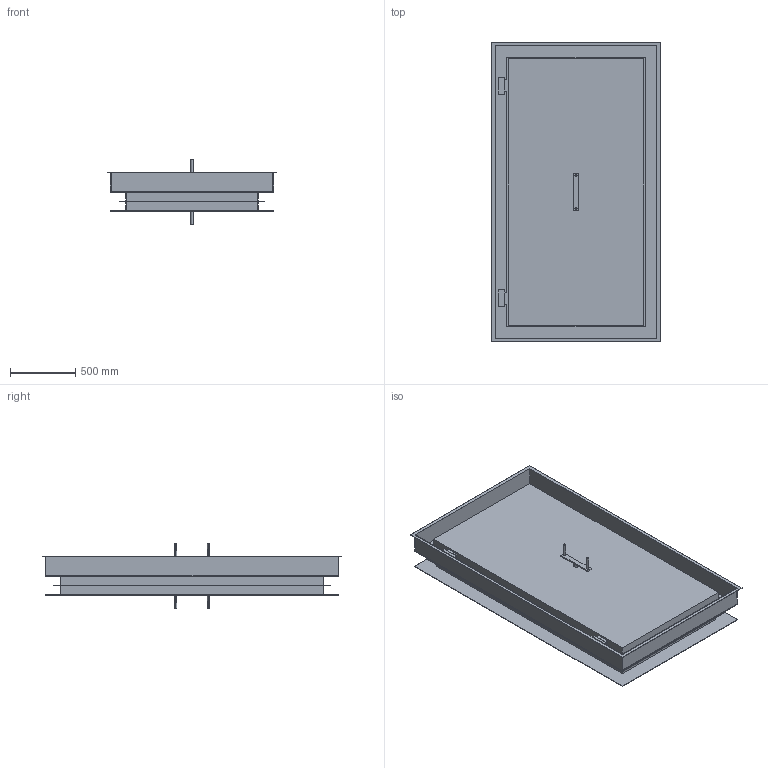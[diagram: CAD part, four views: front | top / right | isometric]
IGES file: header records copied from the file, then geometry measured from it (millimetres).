
Start section:  PTC IGES file: 51797892.igs
Global section: file name: 51797892.igs; native system: Creo Parametric by PTC Inc.; preprocessor: 2021304; author: ka; organization: Unknown; date: 20220317.095448; units: millimetre
Bounding box: 1300 x 2300 x 495 mm (x, y, z)
Surface area: 13009421.1 mm2 (no closed solid volume)
Topology: 0 solids, 0 shells, 99 faces, 464 edges, 464 vertices
Faces by surface type: bspline 87, revolution 12
